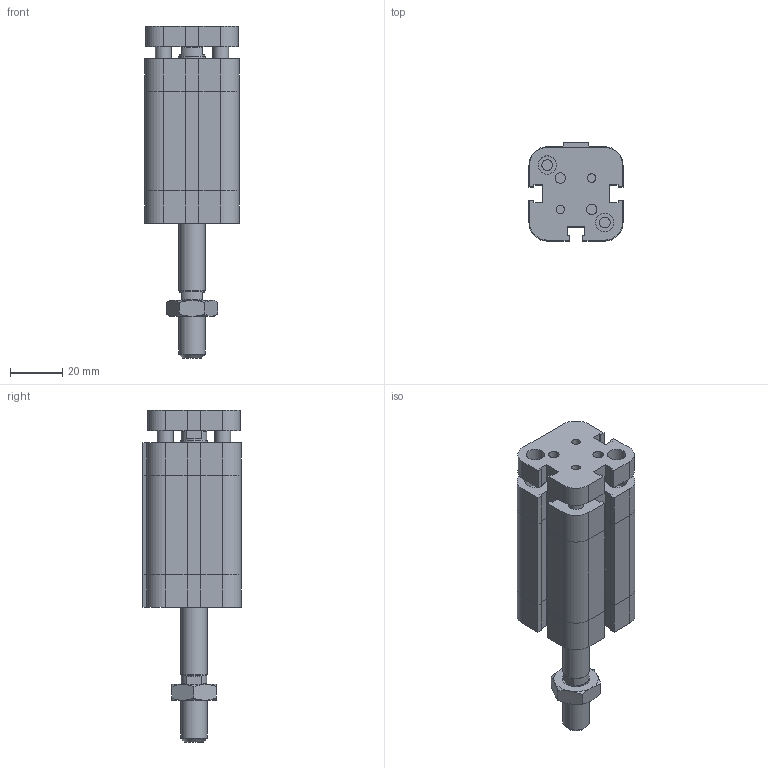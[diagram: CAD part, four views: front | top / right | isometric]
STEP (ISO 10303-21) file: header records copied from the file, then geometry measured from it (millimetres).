
FILE_DESCRIPTION((''),'2;1');
FILE_NAME('I:\Area Tecnica\Disegni\VARIE-3D\Componenti\EUROPE\15##_###_####_09_#\1581_20_0025_09_1.iam.stp','2009-04-20T15:43:09',(''),(''),'Autodesk Inventor 2009','Autodesk Inventor 2009','');
FILE_SCHEMA(('AUTOMOTIVE_DESIGN { 1 0 10303 214 1 1 1 1 }'));
Length unit declared in the file: millimetre
Products named in the file (4): 1581_20_0025_09_1; 1581_20_0025_08_1_C; 1561_20_0025_09_1_SA; DBFM10
Assembly tree (3 placements, depth 2):
  1581_20_0025_09_1
    1581_20_0025_08_1_C
    1561_20_0025_09_1_SA
    DBFM10
Bounding box: 36 x 37.5 x 127 mm (x, y, z)
Volume: 86058.6 mm3; surface area: 28264 mm2
Topology: 3 solids, 3 shells, 236 faces, 550 edges, 339 vertices
Faces by surface type: plane 147, bspline 45, cylinder 23, cone 21
Full cylindrical faces by diameter (mm): 6 x2, 8.8 x1, 9.8 x2, 10 x2
Entity records: 6859 total; most frequent: CARTESIAN_POINT 1610, ORIENTED_EDGE 992, DIRECTION 974, EDGE_CURVE 496, VECTOR 350, LINE 350, VERTEX_POINT 322, AXIS2_PLACEMENT_3D 312
